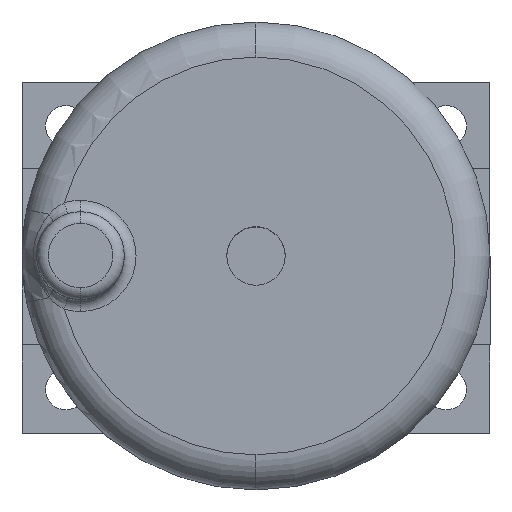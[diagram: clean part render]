
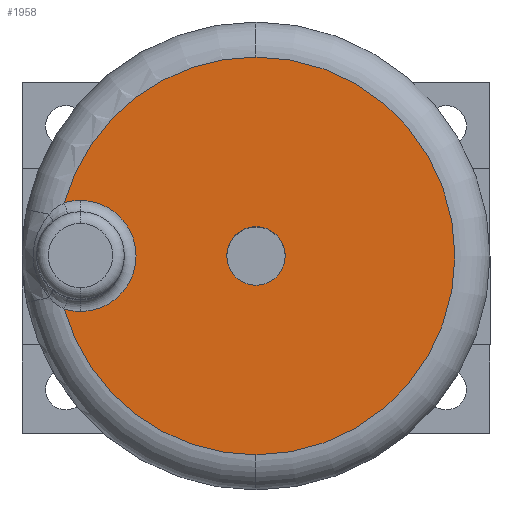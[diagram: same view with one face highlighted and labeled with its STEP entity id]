
A CAD part, top view. The second image highlights one B-rep face of the part: STEP entity #1958.
In plain terms, the highlighted planar face has unit normal (0, 0, 1) as drawn and (1, 0, 0) by its records, which use the part's own axes.
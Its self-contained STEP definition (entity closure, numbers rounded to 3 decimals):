
#1 = VERTEX_POINT ( 'NONE', #190 ) ;
#15 = PLANE ( 'NONE',  #1333 ) ;
#50 = CIRCLE ( 'NONE', #896, 34. ) ;
#54 = ORIENTED_EDGE ( 'NONE', *, *, #400, .T. ) ;
#55 = DIRECTION ( 'NONE',  ( 0., 0., 1. ) ) ;
#67 = ORIENTED_EDGE ( 'NONE', *, *, #2918, .T. ) ;
#74 = VERTEX_POINT ( 'NONE', #2386 ) ;
#91 = DIRECTION ( 'NONE',  ( 1., 0., 0. ) ) ;
#112 = AXIS2_PLACEMENT_3D ( 'NONE', #2488, #796, #1515 ) ;
#139 = VERTEX_POINT ( 'NONE', #1396 ) ;
#175 = VERTEX_POINT ( 'NONE', #1939 ) ;
#190 = CARTESIAN_POINT ( 'NONE',  ( 46., 0., -34. ) ) ;
#221 = DIRECTION ( 'NONE',  ( 0., 0., -1. ) ) ;
#239 = DIRECTION ( 'NONE',  ( -1., 0., 0. ) ) ;
#367 = CARTESIAN_POINT ( 'NONE',  ( 46., 32.763, -9.089 ) ) ;
#375 = EDGE_CURVE ( 'NONE', #1312, #1054, #3068, .T. ) ;
#400 = EDGE_CURVE ( 'NONE', #175, #1, #1849, .T. ) ;
#492 = ORIENTED_EDGE ( 'NONE', *, *, #1364, .T. ) ;
#708 = DIRECTION ( 'NONE',  ( 0., 0., 1. ) ) ;
#739 = CARTESIAN_POINT ( 'NONE',  ( 46., 0., 0. ) ) ;
#751 = CARTESIAN_POINT ( 'NONE',  ( 46., 0., 0. ) ) ;
#789 = CIRCLE ( 'NONE', #2295, 9.5 ) ;
#796 = DIRECTION ( 'NONE',  ( -1., 0., 0. ) ) ;
#843 = AXIS2_PLACEMENT_3D ( 'NONE', #739, #1192, #221 ) ;
#896 = AXIS2_PLACEMENT_3D ( 'NONE', #2675, #1950, #3165 ) ;
#1045 = FACE_OUTER_BOUND ( 'NONE', #1534, .T. ) ;
#1054 = VERTEX_POINT ( 'NONE', #1127 ) ;
#1099 = VERTEX_POINT ( 'NONE', #1344 ) ;
#1127 = CARTESIAN_POINT ( 'NONE',  ( 46., 0., 5. ) ) ;
#1152 = VERTEX_POINT ( 'NONE', #367 ) ;
#1159 = ORIENTED_EDGE ( 'NONE', *, *, #1272, .T. ) ;
#1192 = DIRECTION ( 'NONE',  ( 1., 0., 0. ) ) ;
#1231 = DIRECTION ( 'NONE',  ( 0., 0., 1. ) ) ;
#1272 = EDGE_CURVE ( 'NONE', #74, #175, #50, .T. ) ;
#1300 = FACE_BOUND ( 'NONE', #2486, .T. ) ;
#1312 = VERTEX_POINT ( 'NONE', #2913 ) ;
#1333 = AXIS2_PLACEMENT_3D ( 'NONE', #2972, #1789, #55 ) ;
#1338 = EDGE_CURVE ( 'NONE', #1, #1152, #1986, .T. ) ;
#1344 = CARTESIAN_POINT ( 'NONE',  ( 46., 30., 9.5 ) ) ;
#1364 = EDGE_CURVE ( 'NONE', #1099, #74, #1910, .T. ) ;
#1396 = CARTESIAN_POINT ( 'NONE',  ( 46., 30., -9.5 ) ) ;
#1511 = DIRECTION ( 'NONE',  ( -1., 0., 0. ) ) ;
#1515 = DIRECTION ( 'NONE',  ( 0., 0., 1. ) ) ;
#1534 = EDGE_LOOP ( 'NONE', ( #1159, #54, #2770, #67, #1761, #492 ) ) ;
#1535 = CARTESIAN_POINT ( 'NONE',  ( 46., 0., 0. ) ) ;
#1559 = CIRCLE ( 'NONE', #843, 5. ) ;
#1649 = ORIENTED_EDGE ( 'NONE', *, *, #2531, .F. ) ;
#1721 = DIRECTION ( 'NONE',  ( 0., 0., 1. ) ) ;
#1761 = ORIENTED_EDGE ( 'NONE', *, *, #1909, .T. ) ;
#1770 = DIRECTION ( 'NONE',  ( 0., 0., 1. ) ) ;
#1783 = AXIS2_PLACEMENT_3D ( 'NONE', #1535, #3037, #1770 ) ;
#1789 = DIRECTION ( 'NONE',  ( -1., 0., 0. ) ) ;
#1795 = CIRCLE ( 'NONE', #3099, 9.5 ) ;
#1849 = CIRCLE ( 'NONE', #1783, 34. ) ;
#1907 = ORIENTED_EDGE ( 'NONE', *, *, #375, .F. ) ;
#1909 = EDGE_CURVE ( 'NONE', #139, #1099, #1795, .T. ) ;
#1910 = CIRCLE ( 'NONE', #112, 9.5 ) ;
#1939 = CARTESIAN_POINT ( 'NONE',  ( 46., 0., 34. ) ) ;
#1950 = DIRECTION ( 'NONE',  ( 1., 0., 0. ) ) ;
#1958 = ADVANCED_FACE ( 'NONE', ( #1045, #1300 ), #15, .F. ) ;
#1986 = CIRCLE ( 'NONE', #2855, 34. ) ;
#2038 = DIRECTION ( 'NONE',  ( 0., 0., -1. ) ) ;
#2295 = AXIS2_PLACEMENT_3D ( 'NONE', #2905, #239, #708 ) ;
#2311 = AXIS2_PLACEMENT_3D ( 'NONE', #2491, #91, #2038 ) ;
#2386 = CARTESIAN_POINT ( 'NONE',  ( 46., 32.763, 9.089 ) ) ;
#2433 = DIRECTION ( 'NONE',  ( 1., 0., 0. ) ) ;
#2486 = EDGE_LOOP ( 'NONE', ( #1907, #1649 ) ) ;
#2488 = CARTESIAN_POINT ( 'NONE',  ( 46., 30., 0. ) ) ;
#2491 = CARTESIAN_POINT ( 'NONE',  ( 46., 0., 0. ) ) ;
#2531 = EDGE_CURVE ( 'NONE', #1054, #1312, #1559, .T. ) ;
#2675 = CARTESIAN_POINT ( 'NONE',  ( 46., 0., 0. ) ) ;
#2770 = ORIENTED_EDGE ( 'NONE', *, *, #1338, .T. ) ;
#2855 = AXIS2_PLACEMENT_3D ( 'NONE', #751, #2433, #1231 ) ;
#2905 = CARTESIAN_POINT ( 'NONE',  ( 46., 30., 0. ) ) ;
#2913 = CARTESIAN_POINT ( 'NONE',  ( 46., 0., -5. ) ) ;
#2918 = EDGE_CURVE ( 'NONE', #1152, #139, #789, .T. ) ;
#2972 = CARTESIAN_POINT ( 'NONE',  ( 46., 0., 0. ) ) ;
#2993 = CARTESIAN_POINT ( 'NONE',  ( 46., 30., 0. ) ) ;
#3037 = DIRECTION ( 'NONE',  ( 1., 0., 0. ) ) ;
#3068 = CIRCLE ( 'NONE', #2311, 5. ) ;
#3099 = AXIS2_PLACEMENT_3D ( 'NONE', #2993, #1511, #1721 ) ;
#3165 = DIRECTION ( 'NONE',  ( 0., 0., 1. ) ) ;
